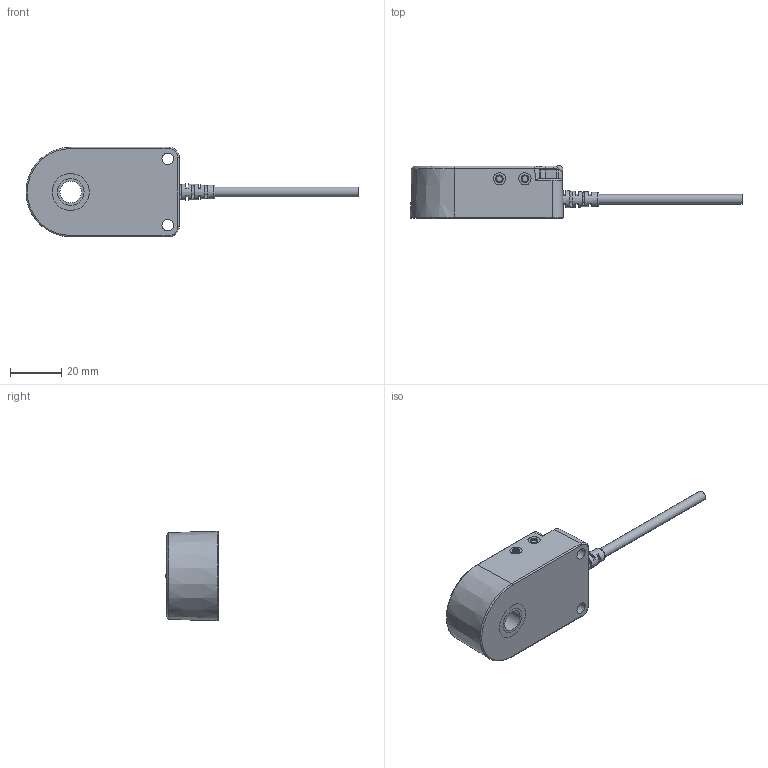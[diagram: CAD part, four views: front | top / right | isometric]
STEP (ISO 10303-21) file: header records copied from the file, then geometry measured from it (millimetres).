
FILE_DESCRIPTION(/* description */ (''),/* implementation_level */ '2;1');
FILE_NAME(/* name */ 'F:\HUAYIFENG\02)HUAYIFENG_3D_MODE\新环型\newhuanxing\3D_PC\PC08.stp',/* time_stamp */ '2019-06-19T19:38:55+08:00',/* author */ ('fengjiarun'),/* organization */ (''),/* preprocessor_version */ 'ST-DEVELOPER v16.5',/* originating_system */ 'Autodesk Inventor 2017',/* authorisation */ '');
FILE_SCHEMA (('AUTOMOTIVE_DESIGN { 1 0 10303 214 3 1 1 }'));
Length unit declared in the file: millimetre
Products named in the file (1): 零件8
Bounding box: 130 x 20.73 x 35 mm (x, y, z)
Volume: 37635.2 mm3; surface area: 9213 mm2
Topology: 1 solids, 1 shells, 229 faces, 559 edges, 356 vertices
Faces by surface type: plane 101, cylinder 65, bspline 38, torus 19, cone 4, sphere 2
Full cylindrical faces by diameter (mm): 3 x3, 3.05 x1, 3.8 x1, 4.5 x2, 4.8 x2, 6 x2, 8.5 x1
Entity records: 8955 total; most frequent: CARTESIAN_POINT 3711, ORIENTED_EDGE 1030, DIRECTION 984, EDGE_CURVE 515, AXIS2_PLACEMENT_3D 385, VERTEX_POINT 334, EDGE_LOOP 277, STYLED_ITEM 228
